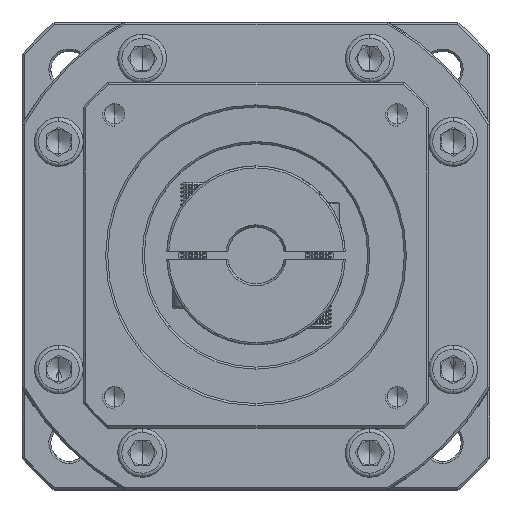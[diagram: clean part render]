
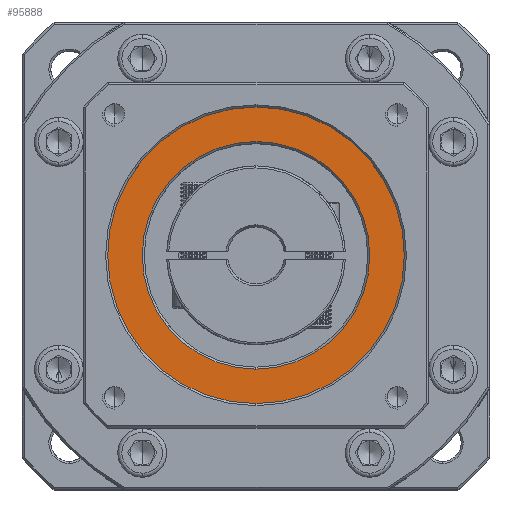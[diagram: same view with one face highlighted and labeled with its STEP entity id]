
A CAD part, top view. The second image highlights one B-rep face of the part: STEP entity #95888.
In plain terms, the highlighted planar face has unit normal (0, 0, 1).
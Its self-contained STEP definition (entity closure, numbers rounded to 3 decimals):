
#2401 = CARTESIAN_POINT ( 'NONE',  ( 68.751, 35.954, -7.408 ) ) ;
#17965 = DIRECTION ( 'NONE',  ( 0., 1., 0. ) ) ;
#23127 = CARTESIAN_POINT ( 'NONE',  ( 68.751, 72.454, -7.408 ) ) ;
#24611 = ORIENTED_EDGE ( 'NONE', *, *, #67728, .T. ) ;
#24921 = DIRECTION ( 'NONE',  ( 0., 1., 0. ) ) ;
#25002 = FACE_OUTER_BOUND ( 'NONE', #89476, .T. ) ;
#27240 = VERTEX_POINT ( 'NONE', #46140 ) ;
#29503 = CARTESIAN_POINT ( 'NONE',  ( 68.751, 72.454, -7.408 ) ) ;
#31635 = DIRECTION ( 'NONE',  ( 0., 0., -1. ) ) ;
#32074 = CIRCLE ( 'NONE', #103733, 36.5 ) ;
#33368 = CIRCLE ( 'NONE', #46889, 28. ) ;
#36426 = CIRCLE ( 'NONE', #113266, 36.5 ) ;
#41106 = EDGE_LOOP ( 'NONE', ( #78445, #127779 ) ) ;
#41120 = EDGE_CURVE ( 'NONE', #113408, #70308, #36426, .T. ) ;
#44411 = CARTESIAN_POINT ( 'NONE',  ( 68.751, 108.954, -7.408 ) ) ;
#46140 = CARTESIAN_POINT ( 'NONE',  ( 68.751, 100.454, -7.408 ) ) ;
#46889 = AXIS2_PLACEMENT_3D ( 'NONE', #23127, #31635, #104194 ) ;
#49176 = DIRECTION ( 'NONE',  ( 0., 0., -1. ) ) ;
#50949 = DIRECTION ( 'NONE',  ( 0., 1., 0. ) ) ;
#55716 = CARTESIAN_POINT ( 'NONE',  ( 68.751, 44.454, -7.408 ) ) ;
#59360 = ORIENTED_EDGE ( 'NONE', *, *, #41120, .T. ) ;
#61810 = FACE_BOUND ( 'NONE', #41106, .T. ) ;
#67728 = EDGE_CURVE ( 'NONE', #70308, #113408, #32074, .T. ) ;
#70308 = VERTEX_POINT ( 'NONE', #2401 ) ;
#71138 = DIRECTION ( 'NONE',  ( 0., 0., 1. ) ) ;
#76850 = PLANE ( 'NONE',  #102707 ) ;
#78283 = VERTEX_POINT ( 'NONE', #55716 ) ;
#78445 = ORIENTED_EDGE ( 'NONE', *, *, #103507, .T. ) ;
#79363 = EDGE_CURVE ( 'NONE', #78283, #27240, #33368, .T. ) ;
#87958 = DIRECTION ( 'NONE',  ( 0., 0., 1. ) ) ;
#89476 = EDGE_LOOP ( 'NONE', ( #59360, #24611 ) ) ;
#93968 = CIRCLE ( 'NONE', #120098, 28. ) ;
#95888 = ADVANCED_FACE ( 'NONE', ( #25002, #61810 ), #76850, .T. ) ;
#97531 = DIRECTION ( 'NONE',  ( 0., 1., 0. ) ) ;
#98434 = DIRECTION ( 'NONE',  ( 0., 0., 1. ) ) ;
#100650 = CARTESIAN_POINT ( 'NONE',  ( 68.751, 72.454, -7.408 ) ) ;
#102707 = AXIS2_PLACEMENT_3D ( 'NONE', #116663, #87958, #24921 ) ;
#103507 = EDGE_CURVE ( 'NONE', #27240, #78283, #93968, .T. ) ;
#103733 = AXIS2_PLACEMENT_3D ( 'NONE', #100650, #71138, #50949 ) ;
#104194 = DIRECTION ( 'NONE',  ( 0., 1., 0. ) ) ;
#113266 = AXIS2_PLACEMENT_3D ( 'NONE', #118985, #98434, #97531 ) ;
#113408 = VERTEX_POINT ( 'NONE', #44411 ) ;
#116663 = CARTESIAN_POINT ( 'NONE',  ( 68.751, 72.454, -7.408 ) ) ;
#118985 = CARTESIAN_POINT ( 'NONE',  ( 68.751, 72.454, -7.408 ) ) ;
#120098 = AXIS2_PLACEMENT_3D ( 'NONE', #29503, #49176, #17965 ) ;
#127779 = ORIENTED_EDGE ( 'NONE', *, *, #79363, .T. ) ;
